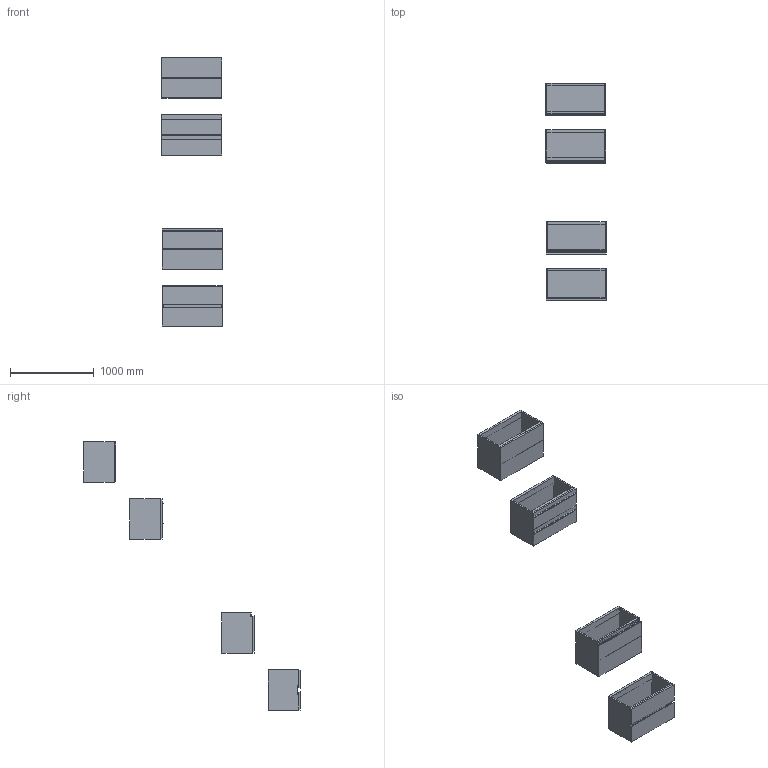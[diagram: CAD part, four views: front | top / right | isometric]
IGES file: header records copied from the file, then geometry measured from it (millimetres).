
Start section: Data from Parasolid IGES Translator 19.0.9, Copyright(c) 2006 Siemens PL M Software. All Rights Reserved.
Global section: file name: noorth-SI-H 48 D 38,8 W 72_8392.igs; native system: By Siemens PLM Incorporated; preprocessor: XPlus GENERIC/IGES 19.0.9; author: Noname; organization: Noname; date: 20200601.101427; units: metre
Bounding box: 724.84 x 2585.1 x 3199.21 mm (x, y, z)
Volume: 74909209.6 mm3; surface area: 11803538.4 mm2
Topology: 37 solids, 37 shells, 342 faces, 748 edges, 460 vertices
Faces by surface type: plane 254, extrusion 36, bspline 32, cylinder 20
